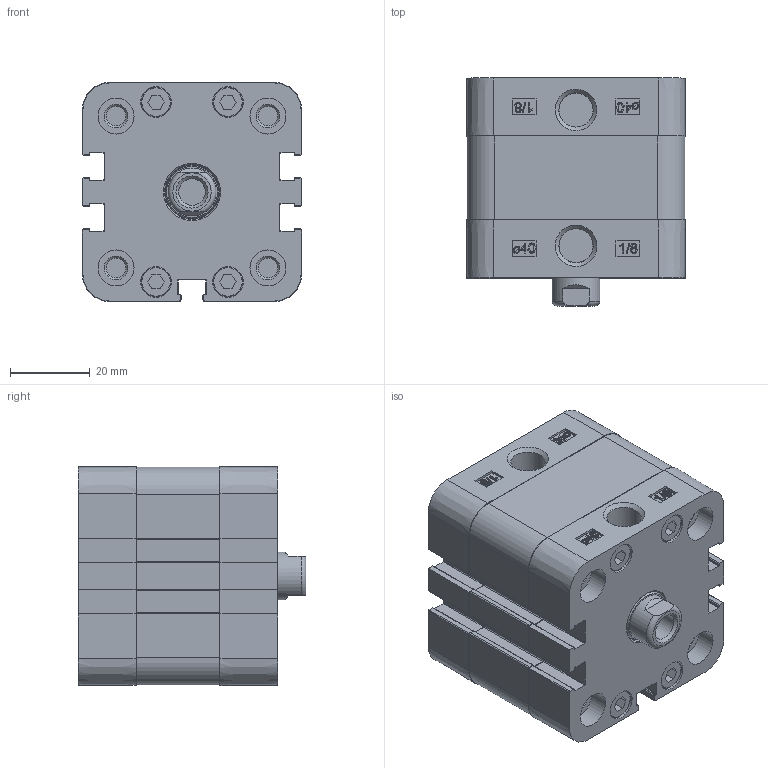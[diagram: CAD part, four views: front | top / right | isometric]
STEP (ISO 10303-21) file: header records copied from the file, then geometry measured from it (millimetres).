
FILE_DESCRIPTION(/* description */ ('Unknown'),/* implementation_level */ '2;1');
FILE_NAME(/* name */ 'ZEN 40_5',/* time_stamp */ '2024-09-10T14:20:07+02:00',/* author */ ('Unknown'),/* organization */ ('Unknown'),/* preprocessor_version */ 'ST-DEVELOPER v16.7',/* originating_system */ 'Solid Edge',/* authorisation */ 'Unknown');
FILE_SCHEMA (('AUTOMOTIVE_DESIGN {1 0 10303 214 3 1 1}'));
Length unit declared in the file: millimetre
Products named in the file (5): ZEN 40_5; Kit_2; Kolbenstange; Kit_1; Profilrohr
Assembly tree (4 placements, depth 2):
  ZEN 40_5
    Kit_2
    Kolbenstange
    Kit_1
    Profilrohr
Bounding box: 54.8 x 57 x 54.8 mm (x, y, z)
Volume: 127454.4 mm3; surface area: 41567.5 mm2
Topology: 4 solids, 12 shells, 700 faces, 1801 edges, 1185 vertices
Faces by surface type: plane 346, cylinder 194, bspline 88, torus 43, cone 29
Full cylindrical faces by diameter (mm): 4.917 x8, 5.2 x8, 6.64 x1, 6.647 x1, 7.5 x8, 7.7 x8, 8.566 x2, 9 x9, 12 x1, 12.54 x1, 13.7 x1, 14 x1, 16.5 x1, 40 x2
Entity records: 25941 total; most frequent: CARTESIAN_POINT 5260, ORIENTED_EDGE 3354, DIRECTION 3164, EDGE_CURVE 1677, VERTEX_POINT 1156, AXIS2_PLACEMENT_3D 1076, LINE 1012, VECTOR 1012
